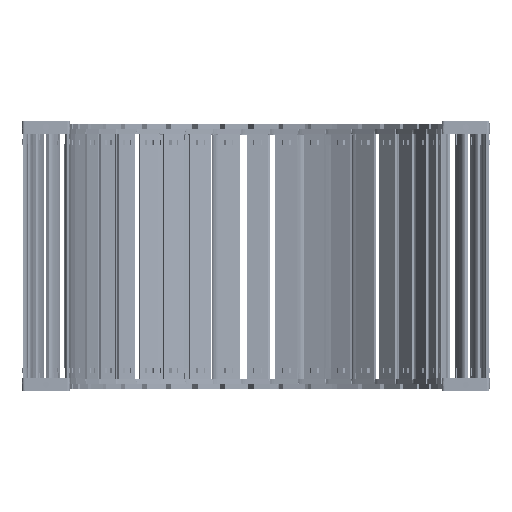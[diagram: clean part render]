
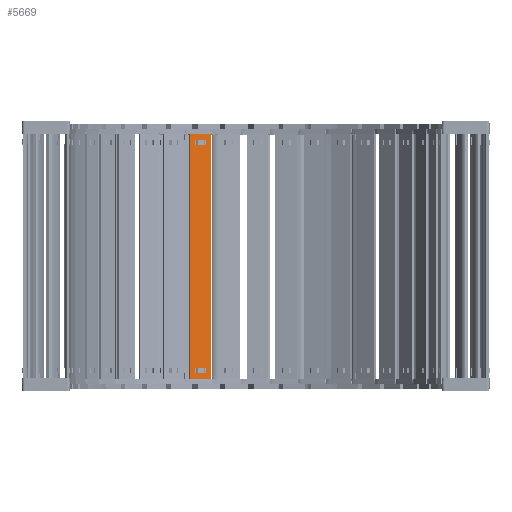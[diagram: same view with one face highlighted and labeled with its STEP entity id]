
A CAD part, top view. The second image highlights one B-rep face of the part: STEP entity #5669.
In plain terms, the highlighted planar face has unit normal (0.279, 0, 0.96) as drawn and (0, 1, 0) by its records, which use the part's own axes.
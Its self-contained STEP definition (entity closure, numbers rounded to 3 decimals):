
#5089=DIRECTION('',(0.,0.,1.));
#5090=VECTOR('',#5089,15.8);
#5091=CARTESIAN_POINT('',(161.24,1.5,-7.9));
#5092=LINE('',#5091,#5090);
#5093=DIRECTION('',(-1.,0.,0.));
#5094=VECTOR('',#5093,176.);
#5095=CARTESIAN_POINT('',(161.24,1.5,7.9));
#5096=LINE('',#5095,#5094);
#5097=DIRECTION('',(0.,0.,-1.));
#5098=VECTOR('',#5097,15.8);
#5099=CARTESIAN_POINT('',(-14.76,1.5,7.9));
#5100=LINE('',#5099,#5098);
#5101=DIRECTION('',(1.,0.,0.));
#5102=VECTOR('',#5101,3.648);
#5103=CARTESIAN_POINT('',(153.622,1.5,4.075));
#5104=LINE('',#5103,#5102);
#5105=DIRECTION('',(0.,0.,-1.));
#5106=VECTOR('',#5105,8.15);
#5107=CARTESIAN_POINT('',(157.27,1.5,4.075));
#5108=LINE('',#5107,#5106);
#5109=DIRECTION('',(-1.,0.,0.));
#5110=VECTOR('',#5109,3.648);
#5111=CARTESIAN_POINT('',(157.27,1.5,-4.075));
#5112=LINE('',#5111,#5110);
#5113=DIRECTION('',(0.,0.,-1.));
#5114=VECTOR('',#5113,8.15);
#5115=CARTESIAN_POINT('',(-7.142,1.5,4.075));
#5116=LINE('',#5115,#5114);
#5117=DIRECTION('',(-1.,0.,0.));
#5118=VECTOR('',#5117,3.648);
#5119=CARTESIAN_POINT('',(-7.142,1.5,-4.075));
#5120=LINE('',#5119,#5118);
#5121=DIRECTION('',(0.,0.,1.));
#5122=VECTOR('',#5121,8.15);
#5123=CARTESIAN_POINT('',(-10.79,1.5,-4.075));
#5124=LINE('',#5123,#5122);
#5125=DIRECTION('',(1.,0.,0.));
#5126=VECTOR('',#5125,3.648);
#5127=CARTESIAN_POINT('',(-10.79,1.5,4.075));
#5128=LINE('',#5127,#5126);
#5133=DIRECTION('',(-1.,0.,0.));
#5134=VECTOR('',#5133,176.);
#5135=CARTESIAN_POINT('',(161.24,1.5,-7.9));
#5136=LINE('',#5135,#5134);
#5254=DIRECTION('',(0.,0.,-1.));
#5255=VECTOR('',#5254,8.15);
#5256=CARTESIAN_POINT('',(153.622,1.5,4.075));
#5257=LINE('',#5256,#5255);
#5439=CARTESIAN_POINT('',(157.27,1.5,4.075));
#5440=VERTEX_POINT('',#5439);
#5441=CARTESIAN_POINT('',(153.622,1.5,4.075));
#5442=VERTEX_POINT('',#5441);
#5483=CARTESIAN_POINT('',(153.622,1.5,-4.075));
#5484=VERTEX_POINT('',#5483);
#5485=CARTESIAN_POINT('',(157.27,1.5,-4.075));
#5486=VERTEX_POINT('',#5485);
#5487=CARTESIAN_POINT('',(161.24,1.5,7.9));
#5489=VERTEX_POINT('',#5487);
#5491=CARTESIAN_POINT('',(161.24,1.5,-7.9));
#5492=VERTEX_POINT('',#5491);
#5515=CARTESIAN_POINT('',(-7.142,1.5,4.075));
#5516=CARTESIAN_POINT('',(-7.142,1.5,-4.075));
#5517=VERTEX_POINT('',#5515);
#5518=VERTEX_POINT('',#5516);
#5519=CARTESIAN_POINT('',(-10.79,1.5,-4.075));
#5520=VERTEX_POINT('',#5519);
#5521=CARTESIAN_POINT('',(-10.79,1.5,4.075));
#5522=VERTEX_POINT('',#5521);
#5523=CARTESIAN_POINT('',(-14.76,1.5,7.9));
#5524=VERTEX_POINT('',#5523);
#5527=CARTESIAN_POINT('',(-14.76,1.5,-7.9));
#5528=VERTEX_POINT('',#5527);
#5638=CARTESIAN_POINT('',(192.98,1.5,10.061));
#5639=DIRECTION('',(0.,-1.,0.));
#5640=DIRECTION('',(0.,0.,-1.));
#5641=AXIS2_PLACEMENT_3D('',#5638,#5639,#5640);
#5642=PLANE('',#5641);
#5643=ORIENTED_EDGE('',*,*,#5577,.T.);
#5644=ORIENTED_EDGE('',*,*,#5603,.T.);
#5645=ORIENTED_EDGE('',*,*,#5616,.T.);
#5647=ORIENTED_EDGE('',*,*,#5646,.F.);
#5648=EDGE_LOOP('',(#5643,#5644,#5645,#5647));
#5649=FACE_OUTER_BOUND('',#5648,.F.);
#5651=ORIENTED_EDGE('',*,*,#5650,.F.);
#5652=ORIENTED_EDGE('',*,*,#5540,.T.);
#5654=ORIENTED_EDGE('',*,*,#5653,.T.);
#5656=ORIENTED_EDGE('',*,*,#5655,.T.);
#5657=EDGE_LOOP('',(#5651,#5652,#5654,#5656));
#5658=FACE_BOUND('',#5657,.F.);
#5660=ORIENTED_EDGE('',*,*,#5659,.T.);
#5662=ORIENTED_EDGE('',*,*,#5661,.T.);
#5664=ORIENTED_EDGE('',*,*,#5663,.T.);
#5666=ORIENTED_EDGE('',*,*,#5665,.T.);
#5667=EDGE_LOOP('',(#5660,#5662,#5664,#5666));
#5668=FACE_BOUND('',#5667,.F.);
#5669=ADVANCED_FACE('',(#5649,#5658,#5668),#5642,.F.);
#5540=EDGE_CURVE('',#5442,#5440,#5104,.T.);
#5577=EDGE_CURVE('',#5492,#5489,#5092,.T.);
#5603=EDGE_CURVE('',#5489,#5524,#5096,.T.);
#5616=EDGE_CURVE('',#5524,#5528,#5100,.T.);
#5646=EDGE_CURVE('',#5492,#5528,#5136,.T.);
#5650=EDGE_CURVE('',#5442,#5484,#5257,.T.);
#5653=EDGE_CURVE('',#5440,#5486,#5108,.T.);
#5655=EDGE_CURVE('',#5486,#5484,#5112,.T.);
#5659=EDGE_CURVE('',#5517,#5518,#5116,.T.);
#5661=EDGE_CURVE('',#5518,#5520,#5120,.T.);
#5663=EDGE_CURVE('',#5520,#5522,#5124,.T.);
#5665=EDGE_CURVE('',#5522,#5517,#5128,.T.);
